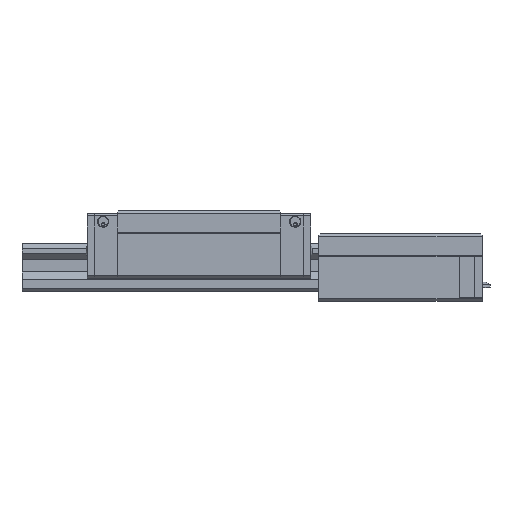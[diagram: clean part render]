
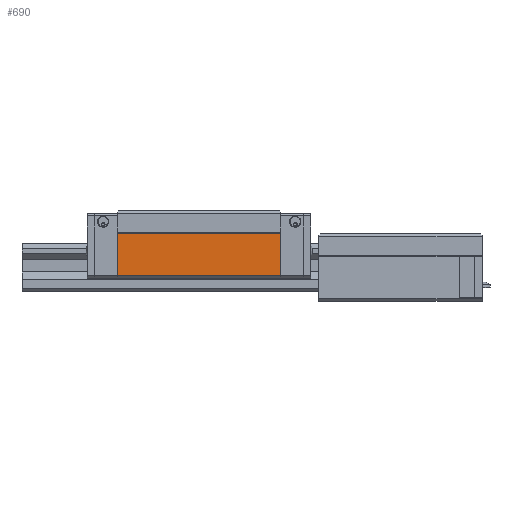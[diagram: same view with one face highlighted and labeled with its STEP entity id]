
A CAD part, left-side view. The second image highlights one B-rep face of the part: STEP entity #690.
In plain terms, the highlighted planar face has unit normal (-1, 0, 0).
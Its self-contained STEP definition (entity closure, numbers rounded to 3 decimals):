
#690 = ADVANCED_FACE( '', ( #1341 ), #1342, .T. );
#1341 = FACE_OUTER_BOUND( '', #1890, .T. );
#1342 = PLANE( '', #1891 );
#1890 = EDGE_LOOP( '', ( #3120, #3121, #3122, #3123 ) );
#1891 = AXIS2_PLACEMENT_3D( '', #3124, #3125, #3126 );
#3120 = ORIENTED_EDGE( '', *, *, #4023, .F. );
#3121 = ORIENTED_EDGE( '', *, *, #4024, .F. );
#3122 = ORIENTED_EDGE( '', *, *, #3996, .T. );
#3123 = ORIENTED_EDGE( '', *, *, #4004, .T. );
#3124 = CARTESIAN_POINT( '', ( -21.6, 56.8, -10.8 ) );
#3125 = DIRECTION( '', ( -1., 0., 0. ) );
#3126 = DIRECTION( '', ( 0., 0., 1. ) );
#3996 = EDGE_CURVE( '', #4706, #4704, #4707, .T. );
#4004 = EDGE_CURVE( '', #4704, #4719, #4721, .T. );
#4023 = EDGE_CURVE( '', #4753, #4719, #4754, .T. );
#4024 = EDGE_CURVE( '', #4706, #4753, #4755, .T. );
#4704 = VERTEX_POINT( '', #5607 );
#4706 = VERTEX_POINT( '', #5610 );
#4707 = LINE( '', #5611, #5612 );
#4719 = VERTEX_POINT( '', #5630 );
#4721 = LINE( '', #5633, #5634 );
#4753 = VERTEX_POINT( '', #5679 );
#4754 = LINE( '', #5680, #5681 );
#4755 = LINE( '', #5682, #5683 );
#5607 = CARTESIAN_POINT( '', ( -21.6, 56.8, -10.8 ) );
#5610 = CARTESIAN_POINT( '', ( -21.6, 56.8, 3.9 ) );
#5611 = CARTESIAN_POINT( '', ( -21.6, 56.8, -10.8 ) );
#5612 = VECTOR( '', #6262, 1000. );
#5630 = CARTESIAN_POINT( '', ( -21.6, 0., -10.8 ) );
#5633 = CARTESIAN_POINT( '', ( -21.6, 56.8, -10.8 ) );
#5634 = VECTOR( '', #6270, 1000. );
#5679 = CARTESIAN_POINT( '', ( -21.6, 0., 3.9 ) );
#5680 = CARTESIAN_POINT( '', ( -21.6, 0., -10.8 ) );
#5681 = VECTOR( '', #6299, 1000. );
#5682 = CARTESIAN_POINT( '', ( -21.6, 56.8, 3.9 ) );
#5683 = VECTOR( '', #6300, 1000. );
#6262 = DIRECTION( '', ( 0., 0., -1. ) );
#6270 = DIRECTION( '', ( 0., -1., 0. ) );
#6299 = DIRECTION( '', ( 0., 0., -1. ) );
#6300 = DIRECTION( '', ( 0., -1., 0. ) );
